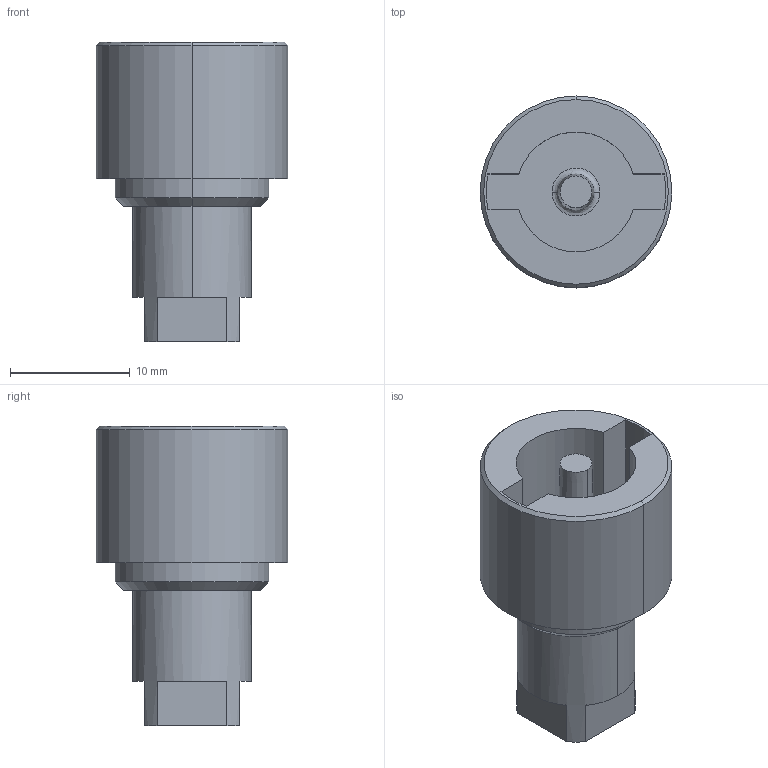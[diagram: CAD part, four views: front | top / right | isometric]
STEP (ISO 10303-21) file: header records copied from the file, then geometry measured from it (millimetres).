
FILE_DESCRIPTION (( 'STEP AP203' ), '1' );
FILE_NAME ('ALI503_V1.step', '2013-02-22T13:56:38', ( '' ), ( '' ), 'SwSTEP 2.0', 'SolidWorks 2011', '' );
FILE_SCHEMA (( 'CONFIG_CONTROL_DESIGN' ));
Length unit declared in the file: millimetre
Products named in the file (2): ALI503_V1; 1000-215-03SK
Assembly tree (1 placements, depth 2):
  ALI503_V1
    1000-215-03SK
Bounding box: 16 x 16 x 25 mm (x, y, z)
Volume: 2479.3 mm3; surface area: 1966.8 mm2
Topology: 1 solids, 1 shells, 42 faces, 99 edges, 64 vertices
Faces by surface type: plane 19, cylinder 13, cone 8, bspline 2
Entity records: 1511 total; most frequent: CARTESIAN_POINT 313, DIRECTION 233, ORIENTED_EDGE 198, EDGE_CURVE 99, AXIS2_PLACEMENT_3D 92, VERTEX_POINT 64, LINE 49, VECTOR 49
